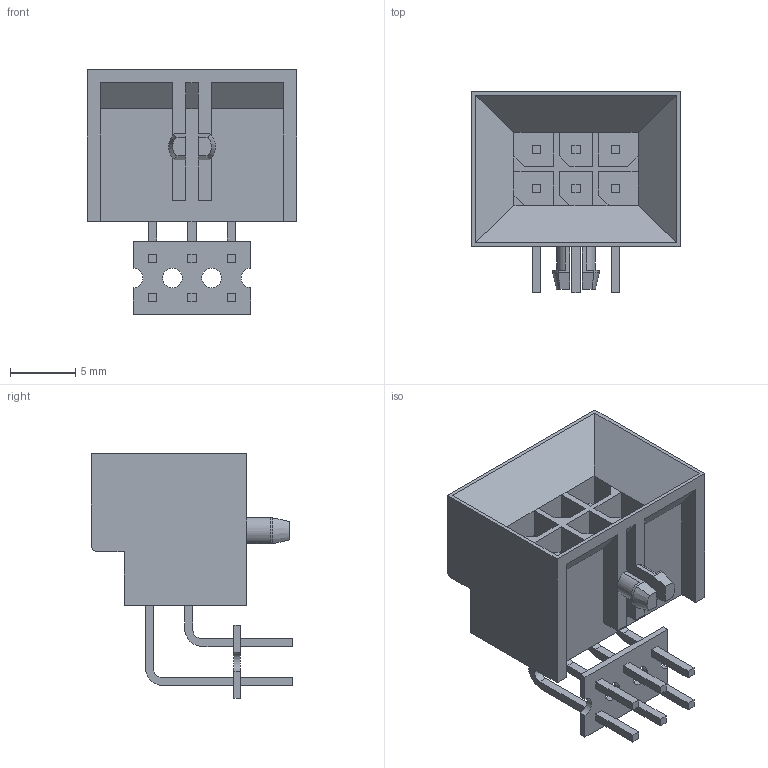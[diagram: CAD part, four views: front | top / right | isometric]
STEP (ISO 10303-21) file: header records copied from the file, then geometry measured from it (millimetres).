
FILE_DESCRIPTION((''),'2;1');
FILE_NAME('444280602','2019-02-08T',('gga'),(''),'PRO/ENGINEER BY PARAMETRIC TECHNOLOGY CORPORATION, 2016010','PRO/ENGINEER BY PARAMETRIC TECHNOLOGY CORPORATION, 2016010','');
FILE_SCHEMA(('CONFIG_CONTROL_DESIGN'));
Length unit declared in the file: millimetre
Products named in the file (1): 444280602
Bounding box: 16 x 15.4 x 18.71 mm (x, y, z)
Volume: 1212.8 mm3; surface area: 1893.4 mm2
Topology: 1 solids, 1 shells, 215 faces, 589 edges, 395 vertices
Faces by surface type: plane 188, cylinder 25, cone 2
Entity records: 6759 total; most frequent: CARTESIAN_POINT 1190, ORIENTED_EDGE 1142, DIRECTION 1085, EDGE_CURVE 571, VECTOR 517, LINE 517, VERTEX_POINT 373, AXIS2_PLACEMENT_3D 284
